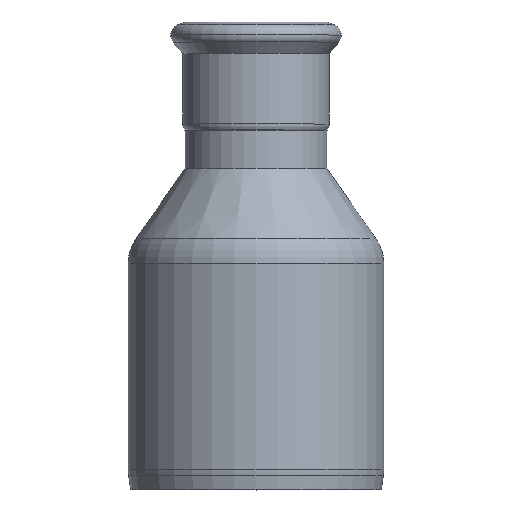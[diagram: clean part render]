
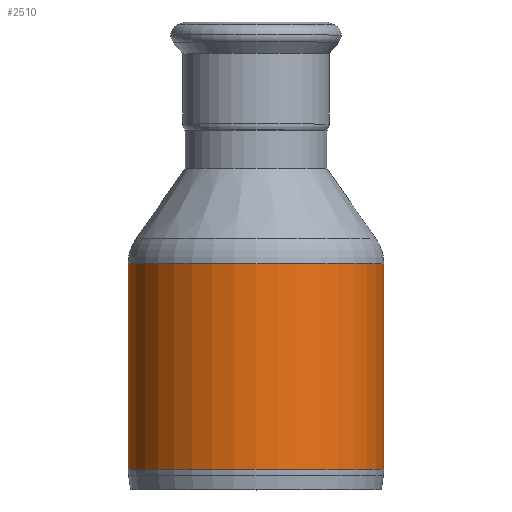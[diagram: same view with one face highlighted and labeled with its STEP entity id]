
A CAD part, top view. The second image highlights one B-rep face of the part: STEP entity #2510.
In plain terms, the highlighted cylindrical face has radius 33.35 mm (diameter 66.7 mm), a partial arc.
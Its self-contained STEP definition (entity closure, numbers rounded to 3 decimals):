
#1370=CARTESIAN_POINT('',(55.951,-3.569,
0.));
#1380=VERTEX_POINT('',#1370);
#1430=CARTESIAN_POINT('',(22.601,-3.569,0.));
#1440=DIRECTION('',(0.,1.,0.));
#1450=DIRECTION('',(1.,0.,0.));
#1460=AXIS2_PLACEMENT_3D('',#1430,#1440,#1450);
#1470=CIRCLE('',#1460,33.35);
#1480=CARTESIAN_POINT('',(-10.749,-3.569,
0.));
#1490=VERTEX_POINT('',#1480);
#1500=EDGE_CURVE('',#1490,#1380,#1470,.T.);
#2200=CARTESIAN_POINT('',(22.601,-5.202,0.));
#2210=DIRECTION('',(-0.,-1.,0.));
#2220=DIRECTION('',(1.,-0.,0.));
#2230=AXIS2_PLACEMENT_3D('',#2200,#2210,#2220);
#2240=CYLINDRICAL_SURFACE('',#2230,33.35);
#2250=CARTESIAN_POINT('',(-10.749,-5.202,
0.));
#2260=DIRECTION('',(-0.,-1.,0.));
#2270=VECTOR('',#2260,1.);
#2280=LINE('',#2250,#2270);
#2290=CARTESIAN_POINT('',(-10.749,-57.205,
0.));
#2300=VERTEX_POINT('',#2290);
#2310=EDGE_CURVE('',#1490,#2300,#2280,.T.);
#2320=ORIENTED_EDGE('',*,*,#2310,.T.);
#2330=ORIENTED_EDGE('',*,*,#1500,.F.);
#2340=CARTESIAN_POINT('',(55.951,-5.202,
0.));
#2350=DIRECTION('',(-0.,-1.,0.));
#2360=VECTOR('',#2350,1.);
#2370=LINE('',#2340,#2360);
#2380=CARTESIAN_POINT('',(55.951,-57.205,
0.));
#2390=VERTEX_POINT('',#2380);
#2400=EDGE_CURVE('',#1380,#2390,#2370,.T.);
#2410=ORIENTED_EDGE('',*,*,#2400,.F.);
#2420=CARTESIAN_POINT('',(22.601,-57.205,0.));
#2430=DIRECTION('',(0.,1.,0.));
#2440=DIRECTION('',(-1.,0.,0.));
#2450=AXIS2_PLACEMENT_3D('',#2420,#2430,#2440);
#2460=CIRCLE('',#2450,33.35);
#2470=EDGE_CURVE('',#2300,#2390,#2460,.T.);
#2480=ORIENTED_EDGE('',*,*,#2470,.T.);
#2490=EDGE_LOOP('',(#2480,#2410,#2330,#2320));
#2500=FACE_OUTER_BOUND('',#2490,.T.);
#2510=ADVANCED_FACE('',(#2500),#2240,.T.);
